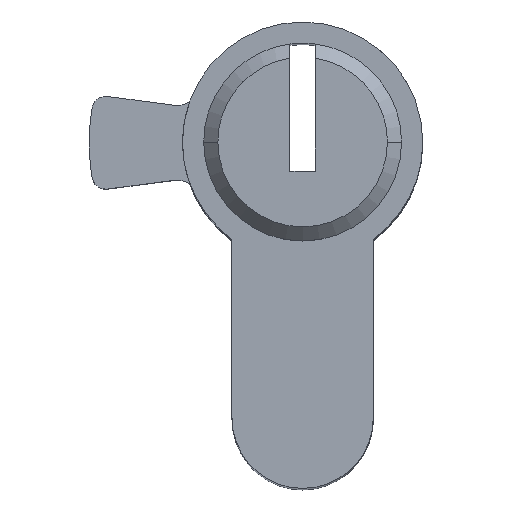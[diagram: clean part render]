
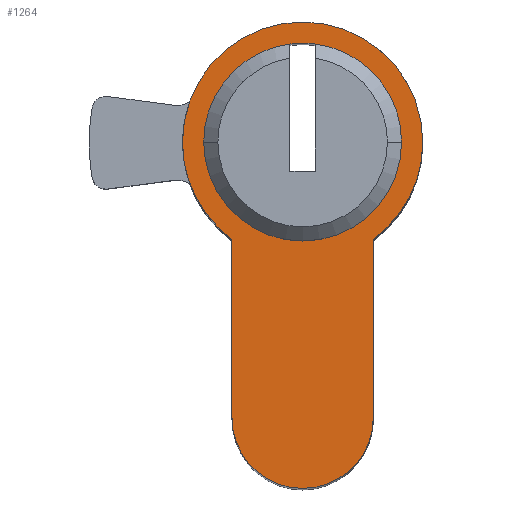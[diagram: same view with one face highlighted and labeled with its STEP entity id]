
A CAD part, top view. The second image highlights one B-rep face of the part: STEP entity #1264.
In plain terms, the highlighted planar face has unit normal (0, 0, 1).
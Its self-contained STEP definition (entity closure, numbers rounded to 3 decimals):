
#60 = AXIS2_PLACEMENT_3D ( 'NONE', #275, #1268, #310 ) ;
#109 = ORIENTED_EDGE ( 'NONE', *, *, #205, .T. ) ;
#140 = CARTESIAN_POINT ( 'NONE',  ( 0.9, 6.942, 30. ) ) ;
#156 = AXIS2_PLACEMENT_3D ( 'NONE', #1311, #613, #1159 ) ;
#158 = CARTESIAN_POINT ( 'NONE',  ( 0., 0., 30. ) ) ;
#190 = EDGE_LOOP ( 'NONE', ( #612, #1779, #428, #578 ) ) ;
#201 = CARTESIAN_POINT ( 'NONE',  ( 5., -6.874, 30. ) ) ;
#205 = EDGE_CURVE ( 'NONE', #1168, #965, #865, .T. ) ;
#256 = DIRECTION ( 'NONE',  ( 1., 0., 0. ) ) ;
#275 = CARTESIAN_POINT ( 'NONE',  ( 0., -19.5, 30. ) ) ;
#290 = AXIS2_PLACEMENT_3D ( 'NONE', #382, #1744, #905 ) ;
#310 = DIRECTION ( 'NONE',  ( 1., 0., 0. ) ) ;
#333 = PLANE ( 'NONE',  #156 ) ;
#353 = CIRCLE ( 'NONE', #1558, 8.5 ) ;
#382 = CARTESIAN_POINT ( 'NONE',  ( 0., 0., 30. ) ) ;
#389 = EDGE_CURVE ( 'NONE', #1261, #1148, #470, .T. ) ;
#420 = EDGE_CURVE ( 'NONE', #1509, #830, #476, .T. ) ;
#428 = ORIENTED_EDGE ( 'NONE', *, *, #551, .F. ) ;
#470 = CIRCLE ( 'NONE', #1472, 7. ) ;
#476 = LINE ( 'NONE', #886, #583 ) ;
#519 = DIRECTION ( 'NONE',  ( 0., 0., 1. ) ) ;
#537 = DIRECTION ( 'NONE',  ( 0., 0., 1. ) ) ;
#543 = CARTESIAN_POINT ( 'NONE',  ( 5., -19.5, 30. ) ) ;
#551 = EDGE_CURVE ( 'NONE', #934, #1261, #842, .T. ) ;
#558 = CIRCLE ( 'NONE', #1476, 7. ) ;
#578 = ORIENTED_EDGE ( 'NONE', *, *, #976, .F. ) ;
#583 = VECTOR ( 'NONE', #894, 1000. ) ;
#588 = CIRCLE ( 'NONE', #1391, 8.5 ) ;
#612 = ORIENTED_EDGE ( 'NONE', *, *, #1457, .F. ) ;
#613 = DIRECTION ( 'NONE',  ( 0., 0., 1. ) ) ;
#623 = EDGE_LOOP ( 'NONE', ( #109, #1693, #971, #1492, #1742, #1689 ) ) ;
#652 = CARTESIAN_POINT ( 'NONE',  ( 8.5, 0., 30. ) ) ;
#691 = CARTESIAN_POINT ( 'NONE',  ( 0., 0., 30. ) ) ;
#702 = CARTESIAN_POINT ( 'NONE',  ( 0., 0., 30. ) ) ;
#703 = CARTESIAN_POINT ( 'NONE',  ( -5., -6.874, 30. ) ) ;
#737 = AXIS2_PLACEMENT_3D ( 'NONE', #158, #1379, #1265 ) ;
#742 = DIRECTION ( 'NONE',  ( 1., 0., 0. ) ) ;
#771 = CARTESIAN_POINT ( 'NONE',  ( 5., -19.5, 30. ) ) ;
#830 = VERTEX_POINT ( 'NONE', #1305 ) ;
#842 = CIRCLE ( 'NONE', #290, 7. ) ;
#865 = CIRCLE ( 'NONE', #1009, 8.5 ) ;
#886 = CARTESIAN_POINT ( 'NONE',  ( -5., -6.874, 30. ) ) ;
#890 = VERTEX_POINT ( 'NONE', #1569 ) ;
#894 = DIRECTION ( 'NONE',  ( 0., -1., 0. ) ) ;
#905 = DIRECTION ( 'NONE',  ( 1., 0., 0. ) ) ;
#917 = CARTESIAN_POINT ( 'NONE',  ( -7., 0., 30. ) ) ;
#922 = CARTESIAN_POINT ( 'NONE',  ( 0., 0., 30. ) ) ;
#934 = VERTEX_POINT ( 'NONE', #917 ) ;
#965 = VERTEX_POINT ( 'NONE', #652 ) ;
#966 = DIRECTION ( 'NONE',  ( 0., 0., 1. ) ) ;
#971 = ORIENTED_EDGE ( 'NONE', *, *, #1576, .T. ) ;
#975 = CARTESIAN_POINT ( 'NONE',  ( -0.9, 6.942, 30. ) ) ;
#976 = EDGE_CURVE ( 'NONE', #1525, #934, #558, .T. ) ;
#1007 = EDGE_CURVE ( 'NONE', #965, #890, #353, .T. ) ;
#1009 = AXIS2_PLACEMENT_3D ( 'NONE', #922, #1755, #1747 ) ;
#1012 = EDGE_CURVE ( 'NONE', #1206, #1168, #1069, .T. ) ;
#1069 = LINE ( 'NONE', #543, #1673 ) ;
#1088 = DIRECTION ( 'NONE',  ( 1., 0., 0. ) ) ;
#1095 = EDGE_CURVE ( 'NONE', #830, #1206, #1218, .T. ) ;
#1148 = VERTEX_POINT ( 'NONE', #140 ) ;
#1159 = DIRECTION ( 'NONE',  ( 1., 0., 0. ) ) ;
#1168 = VERTEX_POINT ( 'NONE', #201 ) ;
#1206 = VERTEX_POINT ( 'NONE', #771 ) ;
#1218 = CIRCLE ( 'NONE', #60, 5. ) ;
#1247 = CIRCLE ( 'NONE', #737, 7. ) ;
#1261 = VERTEX_POINT ( 'NONE', #1458 ) ;
#1264 = ADVANCED_FACE ( 'NONE', ( #1694, #1440 ), #333, .T. ) ;
#1265 = DIRECTION ( 'NONE',  ( 1., 0., 0. ) ) ;
#1268 = DIRECTION ( 'NONE',  ( 0., 0., 1. ) ) ;
#1299 = DIRECTION ( 'NONE',  ( 0., 0., 1. ) ) ;
#1305 = CARTESIAN_POINT ( 'NONE',  ( -5., -19.5, 30. ) ) ;
#1311 = CARTESIAN_POINT ( 'NONE',  ( 0., 0., 30. ) ) ;
#1332 = CARTESIAN_POINT ( 'NONE',  ( 0., 0., 30. ) ) ;
#1379 = DIRECTION ( 'NONE',  ( 0., 0., 1. ) ) ;
#1391 = AXIS2_PLACEMENT_3D ( 'NONE', #691, #1299, #742 ) ;
#1440 = FACE_OUTER_BOUND ( 'NONE', #623, .T. ) ;
#1457 = EDGE_CURVE ( 'NONE', #1148, #1525, #1247, .T. ) ;
#1458 = CARTESIAN_POINT ( 'NONE',  ( 7., 0., 30. ) ) ;
#1472 = AXIS2_PLACEMENT_3D ( 'NONE', #702, #966, #1088 ) ;
#1476 = AXIS2_PLACEMENT_3D ( 'NONE', #1759, #537, #256 ) ;
#1477 = DIRECTION ( 'NONE',  ( 0., 1., 0. ) ) ;
#1492 = ORIENTED_EDGE ( 'NONE', *, *, #420, .T. ) ;
#1509 = VERTEX_POINT ( 'NONE', #703 ) ;
#1525 = VERTEX_POINT ( 'NONE', #975 ) ;
#1558 = AXIS2_PLACEMENT_3D ( 'NONE', #1332, #519, #1613 ) ;
#1569 = CARTESIAN_POINT ( 'NONE',  ( -8.5, 0., 30. ) ) ;
#1576 = EDGE_CURVE ( 'NONE', #890, #1509, #588, .T. ) ;
#1613 = DIRECTION ( 'NONE',  ( 1., 0., 0. ) ) ;
#1673 = VECTOR ( 'NONE', #1477, 1000. ) ;
#1689 = ORIENTED_EDGE ( 'NONE', *, *, #1012, .T. ) ;
#1693 = ORIENTED_EDGE ( 'NONE', *, *, #1007, .T. ) ;
#1694 = FACE_BOUND ( 'NONE', #190, .T. ) ;
#1742 = ORIENTED_EDGE ( 'NONE', *, *, #1095, .T. ) ;
#1744 = DIRECTION ( 'NONE',  ( 0., 0., 1. ) ) ;
#1747 = DIRECTION ( 'NONE',  ( 1., 0., 0. ) ) ;
#1755 = DIRECTION ( 'NONE',  ( 0., 0., 1. ) ) ;
#1759 = CARTESIAN_POINT ( 'NONE',  ( 0., 0., 30. ) ) ;
#1779 = ORIENTED_EDGE ( 'NONE', *, *, #389, .F. ) ;
